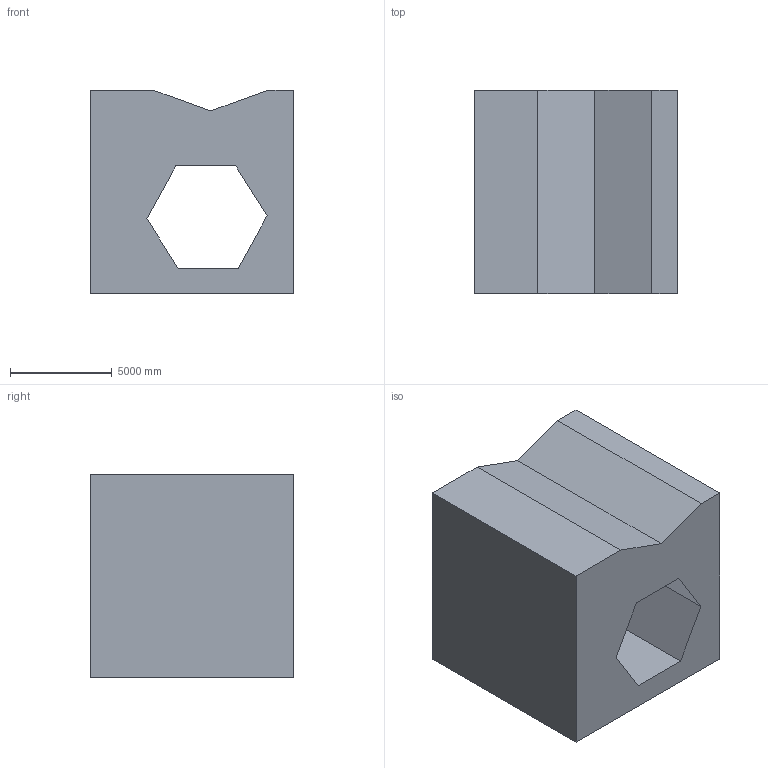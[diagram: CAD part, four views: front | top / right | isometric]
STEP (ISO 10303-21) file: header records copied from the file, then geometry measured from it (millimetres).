
FILE_DESCRIPTION (( 'STEP AP203' ), '1' );
FILE_NAME ('16.STEP', '2022-07-28T13:24:48', ( 'user' ), ( '' ), 'SwSTEP 2.0', 'SolidWorks 2021', '' );
FILE_SCHEMA (( 'CONFIG_CONTROL_DESIGN' ));
Length unit declared in the file: centimetre
Products named in the file (1): 16
Bounding box: 10000 x 10000 x 10000 mm (x, y, z)
Volume: 748101636382.3 mm3; surface area: 729197486.8 mm2
Topology: 1 solids, 1 shells, 15 faces, 39 edges, 26 vertices
Faces by surface type: plane 15
Entity records: 534 total; most frequent: CARTESIAN_POINT 81, ORIENTED_EDGE 78, DIRECTION 71, VECTOR 39, EDGE_CURVE 39, LINE 39, VERTEX_POINT 26, EDGE_LOOP 17
